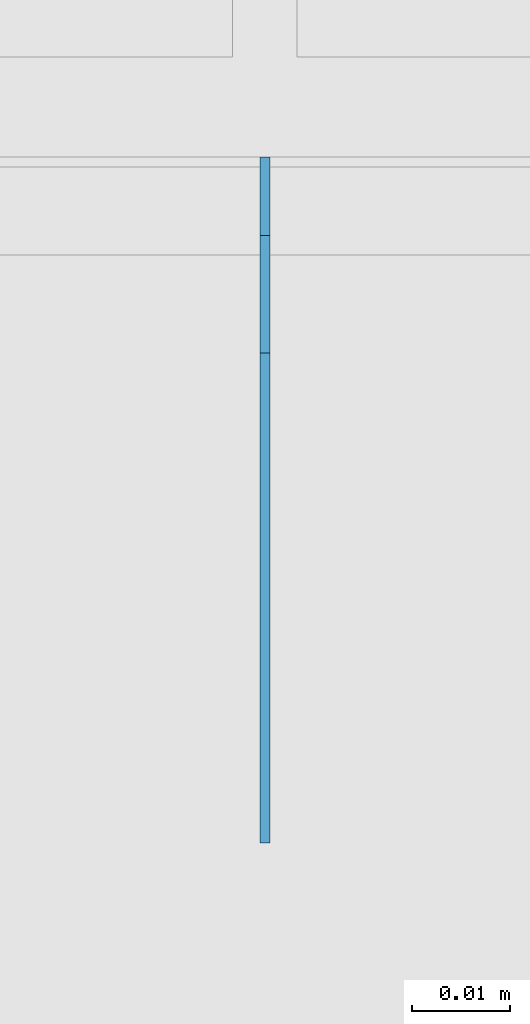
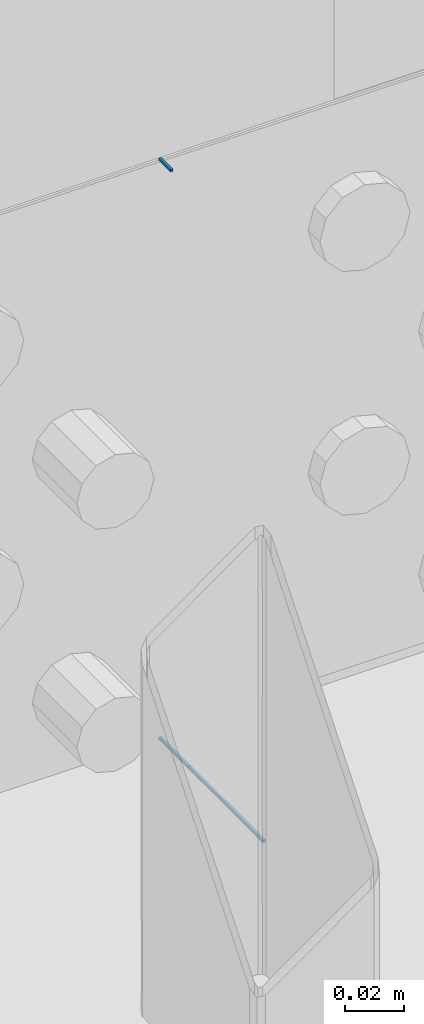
# One storey, part 105 of 186: 3 beams.
"""IFC4X3_ADD2 building model written with IfcOpenShell, lengths in millimetres."""

import ifcopenshell
import ifcopenshell.guid

model = None  # the IFC model being written
_history = None  # IfcOwnerHistory: only IFC2X3 demands one
_inside = {}  # id of a spatial element -> (the spatial element, [elements in it])
_under = {}  # id of a project, library or spatial element -> (it, [spatial elements below it])
_declared = {}  # id of a project -> (the project, [libraries it declares])
_typed = {}  # id of a type object -> (the type object, [elements of that type])
_made_of = {}  # id of a material, layer set ... -> (it, [elements and type objects made of it])


def new_model(schema):
    """Start an empty IFC model of exactly this schema.

    Asked for "IFC4X3", IfcOpenShell would pick the latest addendum, in which some entities
    have other attributes; the version numbers below select the first issue.
    IFC2X3 requires an IfcOwnerHistory on every rooted entity: one is made here for all.
    """
    global model, _history
    if schema == "IFC4X3":
        model = ifcopenshell.file(schema_version=(4, 3, 0, 0))
    else:
        model = ifcopenshell.file(schema=schema)
    _inside.clear()
    _under.clear()
    _declared.clear()
    _typed.clear()
    _made_of.clear()
    _history = None
    if model.schema == "IFC2X3":
        org = make("IfcOrganization", Name="unknown")
        user = make(
            "IfcPersonAndOrganization",
            ThePerson=make("IfcPerson", FamilyName="unknown"),
            TheOrganization=org,
        )
        app = make(
            "IfcApplication",
            ApplicationDeveloper=org,
            Version="unknown",
            ApplicationFullName="unknown",
            ApplicationIdentifier="unknown",
        )
        _history = make(
            "IfcOwnerHistory",
            OwningUser=user,
            OwningApplication=app,
            ChangeAction="ADDED",
            CreationDate=0,
        )
    return model


def make(cls, **values):
    """One entity of the class cls with the attributes given. An attribute that is None is left unset."""
    return model.create_entity(
        cls, **{name: value for name, value in values.items() if value is not None}
    )


def rooted(cls, **values):
    """An entity with a GlobalId (a new one), such as an element, a storey or a relation."""
    return make(cls, GlobalId=ifcopenshell.guid.new(), OwnerHistory=_history, **values)


def si_unit(unit_type, name, prefix=None):
    """IfcSIUnit, for example si_unit("LENGTHUNIT", "METRE", prefix="MILLI")."""
    return make("IfcSIUnit", UnitType=unit_type, Prefix=prefix, Name=name)


def assignment(units):
    """IfcUnitAssignment: the units of a project."""
    return None if units is None else make("IfcUnitAssignment", Units=units)


def point(xyz):
    """IfcCartesianPoint."""
    return None if xyz is None else make("IfcCartesianPoint", Coordinates=xyz)


def direction(xyz):
    """IfcDirection."""
    return None if xyz is None else make("IfcDirection", DirectionRatios=xyz)


def frame(location, z_axis=None, x_axis=None):
    """IfcAxis2Placement3D, a coordinate frame: its origin and axes. An axis left out is left unset."""
    return make(
        "IfcAxis2Placement3D",
        Location=point(location),
        Axis=direction(z_axis),
        RefDirection=direction(x_axis),
    )


def frame_2d(location, x_axis=None):
    """IfcAxis2Placement2D, a coordinate frame in the plane: its origin and x axis."""
    return make(
        "IfcAxis2Placement2D", Location=point(location), RefDirection=direction(x_axis)
    )


def origin_with_axes():
    """The frame at (0, 0, 0) with the z axis (0, 0, 1) and the x axis (1, 0, 0) written out."""
    return frame((0.0, 0.0, 0.0), z_axis=(0.0, 0.0, 1.0), x_axis=(1.0, 0.0, 0.0))


def place(relative_to, where):
    """IfcLocalPlacement: puts the frame where relative to a parent placement (None: the world)."""
    return make(
        "IfcLocalPlacement", PlacementRelTo=relative_to, RelativePlacement=where
    )


def context(
    kind, dimensions, precision=None, world=None, true_north=None, identifier=None
):
    """IfcGeometricRepresentationContext, for example the 3D "Model" context."""
    return make(
        "IfcGeometricRepresentationContext",
        ContextIdentifier=identifier,
        ContextType=kind,
        CoordinateSpaceDimension=dimensions,
        Precision=precision,
        WorldCoordinateSystem=world,
        TrueNorth=true_north,
    )


def subcontext(parent, identifier, kind, view, scale=None):
    """IfcGeometricRepresentationSubContext, for example "Body" below "Model"."""
    return make(
        "IfcGeometricRepresentationSubContext",
        ContextIdentifier=identifier,
        ContextType=kind,
        ParentContext=parent,
        TargetScale=scale,
        TargetView=view,
    )


def project(units=None, contexts=None):
    """IfcProject with its units and contexts."""
    return rooted(
        "IfcProject",
        Name="project",
        RepresentationContexts=contexts,
        UnitsInContext=assignment(units),
    )


def spatial(cls, under=None, at=None, **own):
    """A site, building, storey or space (cls), placed at a placement, below another one or the project."""
    s = rooted(cls, ObjectPlacement=at, **own)
    if under is not None:
        _under.setdefault(under.id(), (under, []))[1].append(s)
    return s


def profile(cls, at=None, kind="AREA", **sizes):
    """A parametric profile (cls). Its sizes go by their IFC names, for example OverallWidth=200.0."""
    return make(cls, ProfileType=kind, Position=at, **sizes)


def rectangle(**sizes):
    """IfcRectangleProfileDef."""
    return profile("IfcRectangleProfileDef", **sizes)


def extrude(swept, where, along, depth):
    """IfcExtrudedAreaSolid: the profile swept, set in the frame where, extruded along a direction by depth."""
    return make(
        "IfcExtrudedAreaSolid",
        SweptArea=swept,
        Position=where,
        ExtrudedDirection=direction(along),
        Depth=depth,
    )


def shape(context_of_items, identifier, shape_type, items):
    """IfcShapeRepresentation: the items that make up one representation, for example the "Body"."""
    return make(
        "IfcShapeRepresentation",
        ContextOfItems=context_of_items,
        RepresentationIdentifier=identifier,
        RepresentationType=shape_type,
        Items=items,
    )


def material(Name=None, Category=None):
    """IfcMaterial."""
    return make("IfcMaterial", Name=Name, Category=Category)


def made_of(thing, what):
    """Note that an element or type object is made of a material, layer set ...; save() writes the relation."""
    if what is not None:
        _made_of.setdefault(what.id(), (what, []))[1].append(thing)
    return thing


def element(
    cls,
    number,
    at=None,
    inside=None,
    cuts=None,
    type_object=None,
    material=None,
    context=None,
    identifier="Body",
    shape_type=None,
    held_by="IfcProductDefinitionShape",
    body=None,
    shapes=None,
    **own,
):
    """One element of the class cls, such as IfcWall. Its Tag is "e" and its number.

    at: its placement. inside: the storey or other place that contains it. cuts: it is an
    opening in that element (IfcRelVoidsElement). A single representation is given by context,
    identifier, shape_type and body (its items); several are given by shapes. held_by: the class
    of the entity that holds the representations. save() writes the other relations.
    """
    e = rooted(cls, Tag="e%d" % number, ObjectPlacement=at, **own)
    if body is not None:
        shapes = [shape(context, identifier, shape_type, body)]
    if shapes is not None:
        e.Representation = make(held_by, Representations=shapes)
    if inside is not None:
        _inside.setdefault(inside.id(), (inside, []))[1].append(e)
    if cuts is not None:
        rooted(
            "IfcRelVoidsElement", RelatingBuildingElement=cuts, RelatedOpeningElement=e
        )
    if type_object is not None:
        _typed.setdefault(type_object.id(), (type_object, []))[1].append(e)
    return made_of(e, material)


def aggregate(whole, parts):
    """IfcRelAggregates: a whole, such as a stair, and the parts it consists of."""
    return rooted("IfcRelAggregates", RelatingObject=whole, RelatedObjects=parts)


def save(model, path):
    """Write the relations noted so far, then the file.

    IfcRelAggregates (storeys below a building ...), IfcRelContainedInSpatialStructure (elements
    in a storey), IfcRelDefinesByType, IfcRelAssociatesMaterial and IfcRelDeclares: one each for
    every whole, place, type object, material and project.
    """
    for whole, parts in _under.values():
        aggregate(whole, parts)
    for where, things in _inside.values():
        rooted(
            "IfcRelContainedInSpatialStructure",
            RelatedElements=things,
            RelatingStructure=where,
        )
    for kind, things in _typed.values():
        rooted("IfcRelDefinesByType", RelatedObjects=things, RelatingType=kind)
    for what, things in _made_of.values():
        rooted("IfcRelAssociatesMaterial", RelatedObjects=things, RelatingMaterial=what)
    for by, libraries in _declared.values():
        rooted("IfcRelDeclares", RelatingContext=by, RelatedDefinitions=libraries)
    model.write(path)


model = new_model("IFC4X3_ADD2")

# Units and contexts
model_context = context("Model", 3, precision=1e-05, world=origin_with_axes(), true_north=direction((0.0, 1.0)))
body_context = subcontext(model_context, "Body", "Model", "MODEL_VIEW")
ifc_project = project(units=[si_unit("LENGTHUNIT", "METRE", prefix="MILLI"), si_unit("AREAUNIT", "SQUARE_METRE"), si_unit("VOLUMEUNIT", "CUBIC_METRE"), si_unit("PLANEANGLEUNIT", "RADIAN"), si_unit("TIMEUNIT", "SECOND"), si_unit("MASSUNIT", "GRAM")], contexts=[model_context])

# Site, building, storey
site_placement = place(None, origin_with_axes())
site = spatial("IfcSite", under=ifc_project, at=site_placement, Name="Site", CompositionType="ELEMENT")
building_placement = place(site_placement, origin_with_axes())
building = spatial("IfcBuilding", under=site, at=building_placement, Name="IFC Building Story")
storey_placement = place(building_placement, frame((0.0, 0.0, 4370.0), z_axis=(0.0, 0.0, 1.0), x_axis=(1.0, 0.0, 0.0)))
storey = spatial("IfcBuildingStorey", under=building, at=storey_placement, Name="ETAGE 10 (1)", Elevation=4370.0)

# Beams
ifc_material_1 = material(Name="STEEL/Accessory_invisible")
beam_1_placement = place(storey_placement, frame((33405.689, 17934.9997253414, 3841.801368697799), z_axis=(1.0, 0.0, 0.0), x_axis=(0.0, 0.0, 1.0)))
element("IfcBeam", 1, at=beam_1_placement, inside=storey, material=ifc_material_1, Name="ZW1", ObjectType="1*1 14", context=body_context, shape_type="SweptSolid", body=[
    extrude(rectangle(XDim=0.9999999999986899, YDim=50.0, at=frame_2d((0.0, 5.95523630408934e-12), x_axis=(1.0, 0.0))), origin_with_axes(), (0.0, 0.0, 1.0), 1.0),
])
beam_2_placement = place(storey_placement, frame((33405.689, 17975.9989318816, 4079.500419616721), z_axis=(1.0, 0.0, 0.0), x_axis=(0.0, 0.0, 1.0)))
element("IfcBeam", 2, at=beam_2_placement, inside=storey, material=ifc_material_1, Name="ZW1", ObjectType="1*1 15", context=body_context, shape_type="SweptSolid", body=[
    extrude(rectangle(XDim=0.9999999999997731, YDim=7.99999999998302, at=frame_2d((0.0, 5.95523630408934e-12), x_axis=(1.0, 0.0))), origin_with_axes(), (0.0, 0.0, 1.0), 1.0),
])
ifc_material_2 = material(Name="STEEL/Accessory_invisible 261")
beam_3_placement = place(storey_placement, frame((33405.689, 17969.9997253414, 3841.80136869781), z_axis=(1.0, 0.0, 0.0), x_axis=(0.0, 0.0, 1.0)))
element("IfcBeam", 3, at=beam_3_placement, inside=storey, material=ifc_material_2, Name="PR10", ObjectType="1*1 13", context=body_context, shape_type="SweptSolid", body=[
    extrude(rectangle(XDim=0.9999999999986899, YDim=20.0, at=frame_2d((0.0, 5.95523630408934e-12), x_axis=(1.0, 0.0))), origin_with_axes(), (0.0, 0.0, 1.0), 1.0),
])

save(model, "model.ifc")
